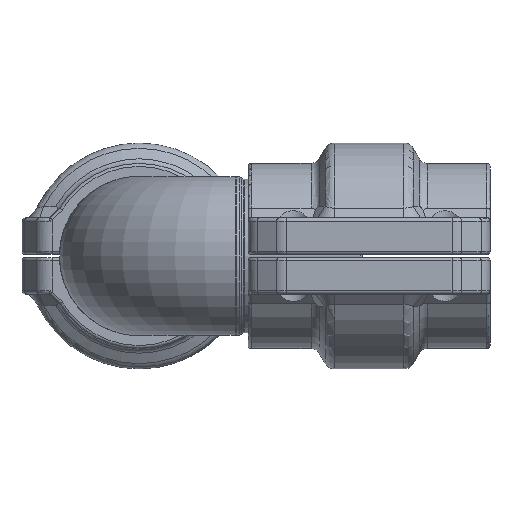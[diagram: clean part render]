
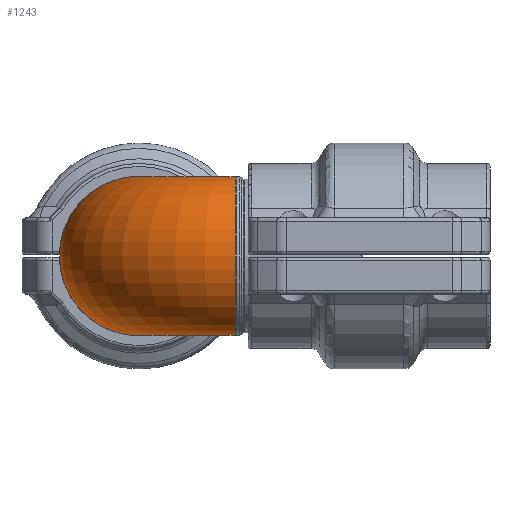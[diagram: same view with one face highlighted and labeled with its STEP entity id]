
A CAD part, left-side view. The second image highlights one B-rep face of the part: STEP entity #1243.
In plain terms, the highlighted toroidal (fillet/blend) face has major radius 31.6 mm and minor radius 26.1 mm.
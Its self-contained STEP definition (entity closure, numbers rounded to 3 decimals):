
#279=CARTESIAN_POINT('',(0.,-31.6,0.));
#280=DIRECTION('',(0.,-1.,0.));
#281=DIRECTION('',(0.,0.,1.));
#282=AXIS2_PLACEMENT_3D('',#279,#280,#281);
#287=CARTESIAN_POINT('',(0.,-31.6,0.));
#288=DIRECTION('',(0.,-1.,0.));
#289=DIRECTION('',(-1.,0.,0.));
#290=AXIS2_PLACEMENT_3D('',#287,#288,#289);
#295=CARTESIAN_POINT('',(31.6,0.,0.));
#296=DIRECTION('',(1.,0.,0.));
#297=DIRECTION('',(0.,0.,-1.));
#298=AXIS2_PLACEMENT_3D('',#295,#296,#297);
#303=CARTESIAN_POINT('',(31.6,0.,0.));
#304=DIRECTION('',(1.,0.,0.));
#305=DIRECTION('',(0.,1.,0.));
#306=AXIS2_PLACEMENT_3D('',#303,#304,#305);
#311=CARTESIAN_POINT('',(31.6,-31.6,26.1));
#312=DIRECTION('',(0.,0.,1.));
#313=DIRECTION('',(0.,1.,0.));
#314=AXIS2_PLACEMENT_3D('',#311,#312,#313);
#413=CARTESIAN_POINT('',(31.6,-31.6,-26.1));
#414=DIRECTION('',(0.,0.,1.));
#415=DIRECTION('',(0.,1.,0.));
#416=AXIS2_PLACEMENT_3D('',#413,#414,#415);
#928=CARTESIAN_POINT('',(31.6,0.,-26.1));
#929=VERTEX_POINT('',#928);
#932=CARTESIAN_POINT('',(31.6,0.,26.1));
#933=VERTEX_POINT('',#932);
#934=CARTESIAN_POINT('',(31.6,26.1,0.));
#935=VERTEX_POINT('',#934);
#936=CARTESIAN_POINT('',(-26.1,-31.6,0.));
#937=CARTESIAN_POINT('',(0.,-31.6,-26.1));
#938=VERTEX_POINT('',#936);
#939=VERTEX_POINT('',#937);
#940=CARTESIAN_POINT('',(0.,-31.6,26.1));
#941=VERTEX_POINT('',#940);
#1226=CARTESIAN_POINT('',(31.6,-31.6,0.));
#1227=DIRECTION('',(0.,0.,1.));
#1228=DIRECTION('',(-1.,0.,0.));
#1229=AXIS2_PLACEMENT_3D('',#1226,#1227,#1228);
#1230=TOROIDAL_SURFACE('',#1229,31.6,26.1);
#1232=ORIENTED_EDGE('',*,*,#1231,.T.);
#1234=ORIENTED_EDGE('',*,*,#1233,.T.);
#1236=ORIENTED_EDGE('',*,*,#1235,.F.);
#1237=ORIENTED_EDGE('',*,*,#1208,.T.);
#1238=ORIENTED_EDGE('',*,*,#1206,.T.);
#1240=ORIENTED_EDGE('',*,*,#1239,.T.);
#1241=EDGE_LOOP('',(#1232,#1234,#1236,#1237,#1238,#1240));
#1242=FACE_OUTER_BOUND('',#1241,.F.);
#283=CIRCLE('',#282,26.1);
#291=CIRCLE('',#290,26.1);
#299=CIRCLE('',#298,26.1);
#307=CIRCLE('',#306,26.1);
#315=CIRCLE('',#314,31.6);
#417=CIRCLE('',#416,31.6);
#1206=EDGE_CURVE('',#935,#933,#307,.T.);
#1208=EDGE_CURVE('',#929,#935,#299,.T.);
#1231=EDGE_CURVE('',#941,#938,#283,.T.);
#1233=EDGE_CURVE('',#938,#939,#291,.T.);
#1235=EDGE_CURVE('',#929,#939,#417,.T.);
#1239=EDGE_CURVE('',#933,#941,#315,.T.);
#1243=ADVANCED_FACE('',(#1242),#1230,.T.);
